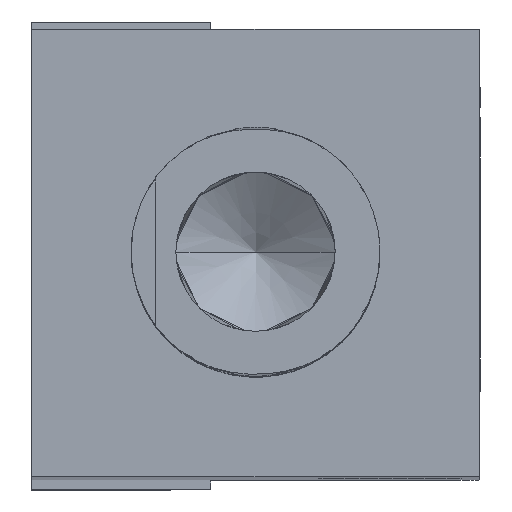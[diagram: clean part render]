
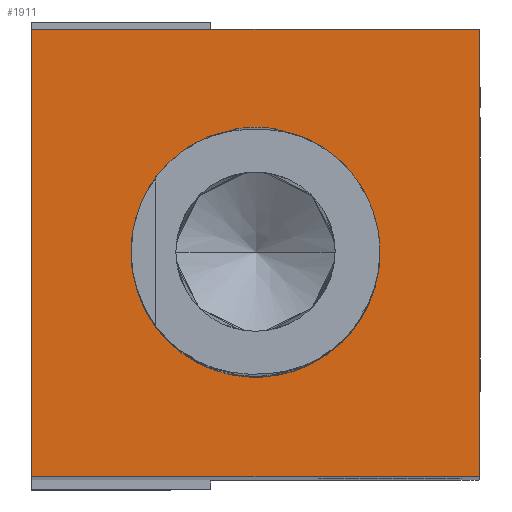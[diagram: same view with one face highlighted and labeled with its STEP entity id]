
A CAD part, top view. The second image highlights one B-rep face of the part: STEP entity #1911.
In plain terms, the highlighted planar face has unit normal (0, 0, 1).
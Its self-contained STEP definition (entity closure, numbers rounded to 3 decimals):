
#1785=AXIS2_PLACEMENT_3D('Plane Axis2P3D',#1782,#1783,#1784) ;
#1782=CARTESIAN_POINT('Axis2P3D Location',(-22.5,22.5,0.)) ;
#1787=CARTESIAN_POINT('Line Origine',(0.,-22.5,0.)) ;
#1791=CARTESIAN_POINT('Vertex',(-22.5,-22.5,0.)) ;
#1793=CARTESIAN_POINT('Vertex',(22.5,-22.5,0.)) ;
#1796=CARTESIAN_POINT('Line Origine',(22.5,0.,0.)) ;
#1800=CARTESIAN_POINT('Vertex',(22.5,22.5,0.)) ;
#1803=CARTESIAN_POINT('Line Origine',(0.,22.5,0.)) ;
#1807=CARTESIAN_POINT('Vertex',(-22.5,22.5,0.)) ;
#1810=CARTESIAN_POINT('Line Origine',(-22.5,0.,0.)) ;
#1822=CARTESIAN_POINT('Control Point',(-8.,0.,0.)) ;
#1823=CARTESIAN_POINT('Control Point',(-8.,0.564,0.)) ;
#1824=CARTESIAN_POINT('Control Point',(-7.948,1.128,0.)) ;
#1825=CARTESIAN_POINT('Control Point',(-7.846,1.686,0.)) ;
#1826=CARTESIAN_POINT('Control Point',(-7.575,2.679,0.)) ;
#1827=CARTESIAN_POINT('Control Point',(-7.152,3.617,0.)) ;
#1828=CARTESIAN_POINT('Control Point',(-6.932,4.026,0.)) ;
#1829=CARTESIAN_POINT('Control Point',(-6.484,4.731,0.)) ;
#1830=CARTESIAN_POINT('Control Point',(-5.947,5.371,0.)) ;
#1831=CARTESIAN_POINT('Control Point',(-5.692,5.639,0.)) ;
#1832=CARTESIAN_POINT('Control Point',(-4.942,6.342,0.)) ;
#1833=CARTESIAN_POINT('Control Point',(-4.086,6.917,0.)) ;
#1834=CARTESIAN_POINT('Control Point',(-3.505,7.228,0.)) ;
#1835=CARTESIAN_POINT('Control Point',(-2.641,7.586,0.)) ;
#1836=CARTESIAN_POINT('Control Point',(-1.738,7.815,0.)) ;
#1837=CARTESIAN_POINT('Control Point',(-1.466,7.871,0.)) ;
#1838=CARTESIAN_POINT('Control Point',(-1.012,7.945,0.)) ;
#1839=CARTESIAN_POINT('Control Point',(-0.553,7.984,0.)) ;
#1840=CARTESIAN_POINT('Control Point',(-0.369,7.994,0.)) ;
#1841=CARTESIAN_POINT('Control Point',(0.467,8.016,0.)) ;
#1842=CARTESIAN_POINT('Control Point',(1.303,7.928,0.)) ;
#1843=CARTESIAN_POINT('Control Point',(1.946,7.794,0.)) ;
#1844=CARTESIAN_POINT('Control Point',(2.75,7.541,0.)) ;
#1845=CARTESIAN_POINT('Control Point',(3.512,7.188,0.)) ;
#1846=CARTESIAN_POINT('Control Point',(3.681,7.104,0.)) ;
#1847=CARTESIAN_POINT('Control Point',(4.01,6.927,0.)) ;
#1848=CARTESIAN_POINT('Control Point',(4.328,6.732,0.)) ;
#1849=CARTESIAN_POINT('Control Point',(4.484,6.629,0.)) ;
#1850=CARTESIAN_POINT('Control Point',(5.091,6.204,0.)) ;
#1851=CARTESIAN_POINT('Control Point',(5.645,5.707,0.)) ;
#1852=CARTESIAN_POINT('Control Point',(6.026,5.299,0.)) ;
#1853=CARTESIAN_POINT('Control Point',(6.719,4.418,0.)) ;
#1854=CARTESIAN_POINT('Control Point',(7.254,3.432,0.)) ;
#1855=CARTESIAN_POINT('Control Point',(7.479,2.914,0.)) ;
#1856=CARTESIAN_POINT('Control Point',(7.776,2.027,0.)) ;
#1857=CARTESIAN_POINT('Control Point',(7.936,1.107,0.)) ;
#1858=CARTESIAN_POINT('Control Point',(7.979,0.74,0.)) ;
#1859=CARTESIAN_POINT('Control Point',(8.,0.37,0.)) ;
#1860=CARTESIAN_POINT('Control Point',(8.,0.,0.)) ;
#1861=CARTESIAN_POINT('Vertex',(-8.,0.,0.)) ;
#1863=CARTESIAN_POINT('Vertex',(8.,0.,0.)) ;
#1867=CARTESIAN_POINT('Control Point',(8.,0.,0.)) ;
#1868=CARTESIAN_POINT('Control Point',(8.,-0.564,0.)) ;
#1869=CARTESIAN_POINT('Control Point',(7.948,-1.128,0.)) ;
#1870=CARTESIAN_POINT('Control Point',(7.846,-1.686,0.)) ;
#1871=CARTESIAN_POINT('Control Point',(7.575,-2.679,0.)) ;
#1872=CARTESIAN_POINT('Control Point',(7.152,-3.617,0.)) ;
#1873=CARTESIAN_POINT('Control Point',(6.932,-4.026,0.)) ;
#1874=CARTESIAN_POINT('Control Point',(6.484,-4.731,0.)) ;
#1875=CARTESIAN_POINT('Control Point',(5.947,-5.371,0.)) ;
#1876=CARTESIAN_POINT('Control Point',(5.692,-5.639,0.)) ;
#1877=CARTESIAN_POINT('Control Point',(4.942,-6.342,0.)) ;
#1878=CARTESIAN_POINT('Control Point',(4.086,-6.917,0.)) ;
#1879=CARTESIAN_POINT('Control Point',(3.505,-7.228,0.)) ;
#1880=CARTESIAN_POINT('Control Point',(2.641,-7.586,0.)) ;
#1881=CARTESIAN_POINT('Control Point',(1.738,-7.815,0.)) ;
#1882=CARTESIAN_POINT('Control Point',(1.466,-7.871,0.)) ;
#1883=CARTESIAN_POINT('Control Point',(1.012,-7.945,0.)) ;
#1884=CARTESIAN_POINT('Control Point',(0.553,-7.984,0.)) ;
#1885=CARTESIAN_POINT('Control Point',(0.369,-7.994,0.)) ;
#1886=CARTESIAN_POINT('Control Point',(-0.467,-8.016,0.)) ;
#1887=CARTESIAN_POINT('Control Point',(-1.303,-7.928,0.)) ;
#1888=CARTESIAN_POINT('Control Point',(-1.946,-7.794,0.)) ;
#1889=CARTESIAN_POINT('Control Point',(-2.75,-7.541,0.)) ;
#1890=CARTESIAN_POINT('Control Point',(-3.512,-7.188,0.)) ;
#1891=CARTESIAN_POINT('Control Point',(-3.681,-7.104,0.)) ;
#1892=CARTESIAN_POINT('Control Point',(-4.01,-6.927,0.)) ;
#1893=CARTESIAN_POINT('Control Point',(-4.328,-6.732,0.)) ;
#1894=CARTESIAN_POINT('Control Point',(-4.484,-6.629,0.)) ;
#1895=CARTESIAN_POINT('Control Point',(-5.091,-6.204,0.)) ;
#1896=CARTESIAN_POINT('Control Point',(-5.645,-5.707,0.)) ;
#1897=CARTESIAN_POINT('Control Point',(-6.026,-5.299,0.)) ;
#1898=CARTESIAN_POINT('Control Point',(-6.719,-4.418,0.)) ;
#1899=CARTESIAN_POINT('Control Point',(-7.254,-3.432,0.)) ;
#1900=CARTESIAN_POINT('Control Point',(-7.479,-2.914,0.)) ;
#1901=CARTESIAN_POINT('Control Point',(-7.776,-2.027,0.)) ;
#1902=CARTESIAN_POINT('Control Point',(-7.936,-1.107,0.)) ;
#1903=CARTESIAN_POINT('Control Point',(-7.979,-0.74,0.)) ;
#1904=CARTESIAN_POINT('Control Point',(-8.,-0.37,0.)) ;
#1905=CARTESIAN_POINT('Control Point',(-8.,0.,0.)) ;
#1783=DIRECTION('Axis2P3D Direction',(-0.,0.,1.)) ;
#1784=DIRECTION('Axis2P3D XDirection',(0.,-1.,0.)) ;
#1788=DIRECTION('Vector Direction',(1.,0.,0.)) ;
#1797=DIRECTION('Vector Direction',(0.,-1.,0.)) ;
#1804=DIRECTION('Vector Direction',(1.,0.,0.)) ;
#1811=DIRECTION('Vector Direction',(0.,-1.,0.)) ;
#1789=VECTOR('Line Direction',#1788,1.) ;
#1798=VECTOR('Line Direction',#1797,1.) ;
#1805=VECTOR('Line Direction',#1804,1.) ;
#1812=VECTOR('Line Direction',#1811,1.) ;
#1816=ORIENTED_EDGE('',*,*,#1795,.T.) ;
#1817=ORIENTED_EDGE('',*,*,#1802,.T.) ;
#1818=ORIENTED_EDGE('',*,*,#1809,.F.) ;
#1819=ORIENTED_EDGE('',*,*,#1814,.T.) ;
#1908=ORIENTED_EDGE('',*,*,#1865,.T.) ;
#1909=ORIENTED_EDGE('',*,*,#1906,.T.) ;
#1910=FACE_BOUND('',#1907,.T.) ;
#1911=ADVANCED_FACE('SZK_30_40_A02_T12_TUENKERS',(#1820,#1910),#1786,.T.) ;
#1821=B_SPLINE_CURVE_WITH_KNOTS('',5,(#1822,#1823,#1824,#1825,#1826,#1827,#1828,#1829,#1830,#1831,#1832,#1833,#1834,#1835,#1836,#1837,#1838,#1839,#1840,#1841,#1842,#1843,#1844,#1845,#1846,#1847,#1848,#1849,#1850,#1851,#1852,#1853,#1854,#1855,#1856,#1857,#1858,#1859,#1860),.UNSPECIFIED.,.F.,.U.,(6,3,3,3,3,3,3,3,3,3,3,3,6),(0.,2.842,5.172,7.042,10.341,11.73,12.659,15.943,16.888,17.824,20.622,23.454,25.317),.UNSPECIFIED.) ;
#1866=B_SPLINE_CURVE_WITH_KNOTS('',5,(#1867,#1868,#1869,#1870,#1871,#1872,#1873,#1874,#1875,#1876,#1877,#1878,#1879,#1880,#1881,#1882,#1883,#1884,#1885,#1886,#1887,#1888,#1889,#1890,#1891,#1892,#1893,#1894,#1895,#1896,#1897,#1898,#1899,#1900,#1901,#1902,#1903,#1904,#1905),.UNSPECIFIED.,.F.,.U.,(6,3,3,3,3,3,3,3,3,3,3,3,6),(0.,2.842,5.172,7.042,10.341,11.73,12.659,15.943,16.888,17.824,20.622,23.454,25.317),.UNSPECIFIED.) ;
#1795=EDGE_CURVE('',#1792,#1794,#1790,.T.) ;
#1802=EDGE_CURVE('',#1794,#1801,#1799,.F.) ;
#1809=EDGE_CURVE('',#1808,#1801,#1806,.T.) ;
#1814=EDGE_CURVE('',#1808,#1792,#1813,.T.) ;
#1865=EDGE_CURVE('',#1862,#1864,#1821,.T.) ;
#1906=EDGE_CURVE('',#1864,#1862,#1866,.T.) ;
#1815=EDGE_LOOP('',(#1816,#1817,#1818,#1819)) ;
#1907=EDGE_LOOP('',(#1908,#1909)) ;
#1820=FACE_OUTER_BOUND('',#1815,.T.) ;
#1790=LINE('Line',#1787,#1789) ;
#1799=LINE('Line',#1796,#1798) ;
#1806=LINE('Line',#1803,#1805) ;
#1813=LINE('Line',#1810,#1812) ;
#1786=PLANE('Plane',#1785) ;
#1792=VERTEX_POINT('',#1791) ;
#1794=VERTEX_POINT('',#1793) ;
#1801=VERTEX_POINT('',#1800) ;
#1808=VERTEX_POINT('',#1807) ;
#1862=VERTEX_POINT('',#1861) ;
#1864=VERTEX_POINT('',#1863) ;
